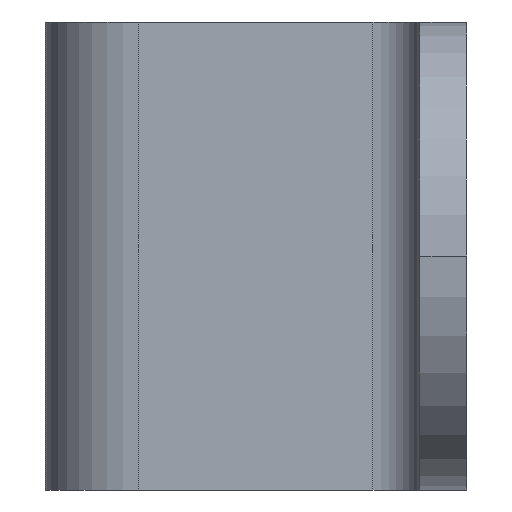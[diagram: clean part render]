
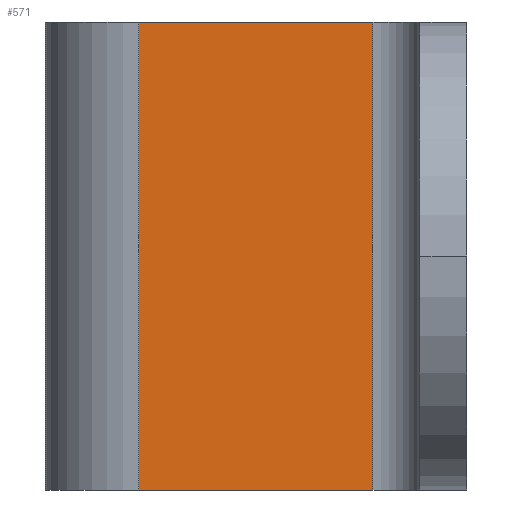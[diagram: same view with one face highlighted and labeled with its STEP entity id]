
A CAD part, left-side view. The second image highlights one B-rep face of the part: STEP entity #571.
In plain terms, the highlighted planar face has unit normal (-1, 0, 0).
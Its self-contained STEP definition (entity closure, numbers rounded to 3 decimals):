
#551=AXIS2_PLACEMENT_3D('Plane Axis2P3D',#548,#549,#550) ;
#215=CARTESIAN_POINT('Vertex',(-17.,4.,-10.)) ;
#218=CARTESIAN_POINT('Line Origine',(-17.,9.,-10.)) ;
#222=CARTESIAN_POINT('Vertex',(-17.,14.,-10.)) ;
#533=CARTESIAN_POINT('Vertex',(-17.,14.,10.)) ;
#536=CARTESIAN_POINT('Line Origine',(-17.,14.,0.)) ;
#548=CARTESIAN_POINT('Axis2P3D Location',(-17.,2.,0.)) ;
#553=CARTESIAN_POINT('Line Origine',(-17.,4.,0.)) ;
#557=CARTESIAN_POINT('Vertex',(-17.,4.,10.)) ;
#560=CARTESIAN_POINT('Line Origine',(-17.,9.,10.)) ;
#219=DIRECTION('Vector Direction',(0.,1.,0.)) ;
#537=DIRECTION('Vector Direction',(0.,0.,1.)) ;
#549=DIRECTION('Axis2P3D Direction',(1.,0.,0.)) ;
#550=DIRECTION('Axis2P3D XDirection',(0.,1.,0.)) ;
#554=DIRECTION('Vector Direction',(0.,0.,1.)) ;
#561=DIRECTION('Vector Direction',(0.,1.,0.)) ;
#220=VECTOR('Line Direction',#219,1.) ;
#538=VECTOR('Line Direction',#537,1.) ;
#555=VECTOR('Line Direction',#554,1.) ;
#562=VECTOR('Line Direction',#561,1.) ;
#566=ORIENTED_EDGE('',*,*,#540,.F.) ;
#567=ORIENTED_EDGE('',*,*,#224,.F.) ;
#568=ORIENTED_EDGE('',*,*,#559,.F.) ;
#569=ORIENTED_EDGE('',*,*,#564,.T.) ;
#571=ADVANCED_FACE('Corps principal',(#570),#552,.F.) ;
#224=EDGE_CURVE('',#216,#223,#221,.T.) ;
#540=EDGE_CURVE('',#223,#534,#539,.T.) ;
#559=EDGE_CURVE('',#558,#216,#556,.F.) ;
#564=EDGE_CURVE('',#558,#534,#563,.T.) ;
#565=EDGE_LOOP('',(#566,#567,#568,#569)) ;
#570=FACE_OUTER_BOUND('',#565,.T.) ;
#221=LINE('Line',#218,#220) ;
#539=LINE('Line',#536,#538) ;
#556=LINE('Line',#553,#555) ;
#563=LINE('Line',#560,#562) ;
#552=PLANE('',#551) ;
#216=VERTEX_POINT('',#215) ;
#223=VERTEX_POINT('',#222) ;
#534=VERTEX_POINT('',#533) ;
#558=VERTEX_POINT('',#557) ;
